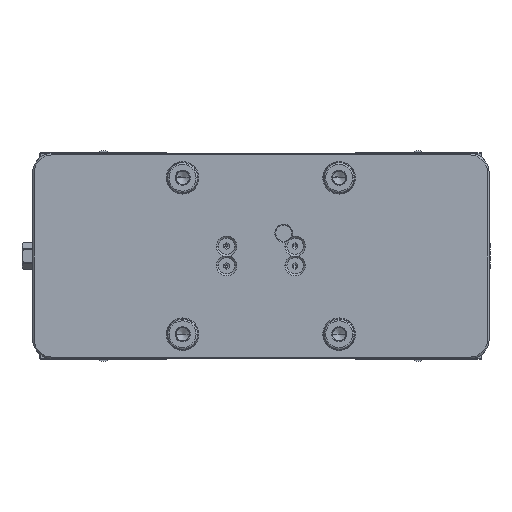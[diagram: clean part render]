
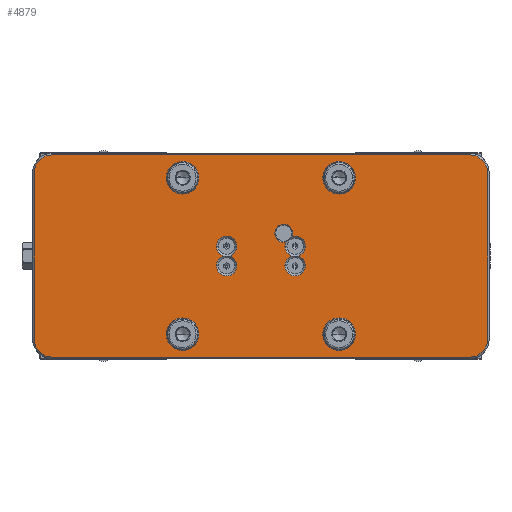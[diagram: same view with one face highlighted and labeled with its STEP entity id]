
A CAD part, front view. The second image highlights one B-rep face of the part: STEP entity #4879.
In plain terms, the highlighted planar face has unit normal (0, -1, 0).
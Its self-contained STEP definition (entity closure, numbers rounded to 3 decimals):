
#2=CARTESIAN_POINT('',(48.,0.,-48.));
#3=DIRECTION('',(0.,1.,0.));
#4=DIRECTION('',(1.,0.,0.));
#5=AXIS2_PLACEMENT_3D('',#2,#3,#4);
#7=CARTESIAN_POINT('',(48.,0.,-48.));
#8=DIRECTION('',(0.,1.,0.));
#9=DIRECTION('',(-1.,0.,0.));
#10=AXIS2_PLACEMENT_3D('',#7,#8,#9);
#12=CARTESIAN_POINT('',(48.,0.,48.));
#13=DIRECTION('',(0.,1.,0.));
#14=DIRECTION('',(1.,0.,0.));
#15=AXIS2_PLACEMENT_3D('',#12,#13,#14);
#17=CARTESIAN_POINT('',(48.,0.,48.));
#18=DIRECTION('',(0.,1.,0.));
#19=DIRECTION('',(-1.,0.,0.));
#20=AXIS2_PLACEMENT_3D('',#17,#18,#19);
#22=CARTESIAN_POINT('',(-48.,0.,-48.));
#23=DIRECTION('',(0.,1.,0.));
#24=DIRECTION('',(1.,0.,0.));
#25=AXIS2_PLACEMENT_3D('',#22,#23,#24);
#27=CARTESIAN_POINT('',(-48.,0.,-48.));
#28=DIRECTION('',(0.,1.,0.));
#29=DIRECTION('',(-1.,0.,0.));
#30=AXIS2_PLACEMENT_3D('',#27,#28,#29);
#32=CARTESIAN_POINT('',(-48.,0.,48.));
#33=DIRECTION('',(0.,1.,0.));
#34=DIRECTION('',(1.,0.,0.));
#35=AXIS2_PLACEMENT_3D('',#32,#33,#34);
#37=CARTESIAN_POINT('',(-48.,0.,48.));
#38=DIRECTION('',(0.,1.,0.));
#39=DIRECTION('',(-1.,0.,0.));
#40=AXIS2_PLACEMENT_3D('',#37,#38,#39);
#42=CARTESIAN_POINT('',(-21.,0.,-6.));
#43=DIRECTION('',(0.,-1.,0.));
#44=DIRECTION('',(-1.,0.,0.));
#45=AXIS2_PLACEMENT_3D('',#42,#43,#44);
#47=CARTESIAN_POINT('',(-21.,0.,-6.));
#48=DIRECTION('',(0.,-1.,0.));
#49=DIRECTION('',(1.,0.,0.));
#50=AXIS2_PLACEMENT_3D('',#47,#48,#49);
#52=CARTESIAN_POINT('',(-21.,0.,6.));
#53=DIRECTION('',(0.,-1.,0.));
#54=DIRECTION('',(0.28,0.,-0.96));
#55=AXIS2_PLACEMENT_3D('',#52,#53,#54);
#57=CARTESIAN_POINT('',(-21.,0.,6.));
#58=DIRECTION('',(0.,-1.,0.));
#59=DIRECTION('',(1.,0.,0.));
#60=AXIS2_PLACEMENT_3D('',#57,#58,#59);
#62=CARTESIAN_POINT('',(-21.,0.,6.));
#63=DIRECTION('',(0.,-1.,0.));
#64=DIRECTION('',(-1.,0.,0.));
#65=AXIS2_PLACEMENT_3D('',#62,#63,#64);
#67=CARTESIAN_POINT('',(-21.,0.,-6.));
#68=DIRECTION('',(0.,-1.,0.));
#69=DIRECTION('',(-0.28,0.,0.96));
#70=AXIS2_PLACEMENT_3D('',#67,#68,#69);
#72=CARTESIAN_POINT('',(21.,0.,-6.));
#73=DIRECTION('',(0.,-1.,0.));
#74=DIRECTION('',(-1.,0.,0.));
#75=AXIS2_PLACEMENT_3D('',#72,#73,#74);
#77=CARTESIAN_POINT('',(21.,0.,-6.));
#78=DIRECTION('',(0.,-1.,0.));
#79=DIRECTION('',(1.,0.,0.));
#80=AXIS2_PLACEMENT_3D('',#77,#78,#79);
#82=CARTESIAN_POINT('',(21.,0.,6.));
#83=DIRECTION('',(0.,-1.,0.));
#84=DIRECTION('',(0.28,0.,-0.96));
#85=AXIS2_PLACEMENT_3D('',#82,#83,#84);
#87=CARTESIAN_POINT('',(21.,0.,6.));
#88=DIRECTION('',(0.,-1.,0.));
#89=DIRECTION('',(1.,0.,0.));
#90=AXIS2_PLACEMENT_3D('',#87,#88,#89);
#92=CARTESIAN_POINT('',(21.,0.,6.));
#93=DIRECTION('',(0.,-1.,0.));
#94=DIRECTION('',(-0.904,0.,0.427));
#95=AXIS2_PLACEMENT_3D('',#92,#93,#94);
#97=CARTESIAN_POINT('',(21.,0.,6.));
#98=DIRECTION('',(0.,-1.,0.));
#99=DIRECTION('',(-1.,0.,0.));
#100=AXIS2_PLACEMENT_3D('',#97,#98,#99);
#102=CARTESIAN_POINT('',(21.,0.,-6.));
#103=DIRECTION('',(0.,-1.,0.));
#104=DIRECTION('',(-0.28,0.,0.96));
#105=AXIS2_PLACEMENT_3D('',#102,#103,#104);
#107=DIRECTION('',(0.,0.,-1.));
#108=VECTOR('',#107,102.);
#109=CARTESIAN_POINT('',(-139.,0.,
51.));
#110=LINE('',#109,#108);
#111=CARTESIAN_POINT('',(-128.,0.,51.));
#112=DIRECTION('',(0.,-1.,0.));
#113=DIRECTION('',(0.,0.,1.));
#114=AXIS2_PLACEMENT_3D('',#111,#112,#113);
#116=DIRECTION('',(-1.,0.,0.));
#117=VECTOR('',#116,256.);
#118=CARTESIAN_POINT('',(128.,0.,62.));
#119=LINE('',#118,#117);
#120=CARTESIAN_POINT('',(128.,0.,51.));
#121=DIRECTION('',(0.,-1.,0.));
#122=DIRECTION('',(1.,0.,0.));
#123=AXIS2_PLACEMENT_3D('',#120,#121,#122);
#125=DIRECTION('',(0.,0.,1.));
#126=VECTOR('',#125,102.);
#127=CARTESIAN_POINT('',(139.,0.,
-51.));
#128=LINE('',#127,#126);
#129=CARTESIAN_POINT('',(128.,0.,-51.));
#130=DIRECTION('',(0.,-1.,0.));
#131=DIRECTION('',(0.,0.,-1.));
#132=AXIS2_PLACEMENT_3D('',#129,#130,#131);
#134=DIRECTION('',(1.,0.,0.));
#135=VECTOR('',#134,256.);
#136=CARTESIAN_POINT('',(-128.,0.,
-62.));
#137=LINE('',#136,#135);
#138=CARTESIAN_POINT('',(-128.,0.,-51.));
#139=DIRECTION('',(0.,-1.,0.));
#140=DIRECTION('',(-1.,0.,0.));
#141=AXIS2_PLACEMENT_3D('',#138,#139,#140);
#694=CARTESIAN_POINT('',(14.,0.,14.));
#695=DIRECTION('',(0.,1.,0.));
#696=DIRECTION('',(0.245,0.,-0.97));
#697=AXIS2_PLACEMENT_3D('',#694,#695,#696);
#3854=CARTESIAN_POINT('',(56.5,0.,-48.));
#3855=CARTESIAN_POINT('',(39.5,0.,-48.));
#3856=VERTEX_POINT('',#3854);
#3857=VERTEX_POINT('',#3855);
#3862=CARTESIAN_POINT('',(56.5,0.,48.));
#3863=CARTESIAN_POINT('',(39.5,0.,48.));
#3864=VERTEX_POINT('',#3862);
#3865=VERTEX_POINT('',#3863);
#3870=CARTESIAN_POINT('',(-39.5,0.,-48.));
#3871=CARTESIAN_POINT('',(-56.5,0.,-48.));
#3872=VERTEX_POINT('',#3870);
#3873=VERTEX_POINT('',#3871);
#3878=CARTESIAN_POINT('',(-39.5,0.,48.));
#3879=CARTESIAN_POINT('',(-56.5,0.,48.));
#3880=VERTEX_POINT('',#3878);
#3881=VERTEX_POINT('',#3879);
#4082=CARTESIAN_POINT('',(-14.75,0.,6.));
#4083=CARTESIAN_POINT('',(-27.25,0.,6.));
#4084=VERTEX_POINT('',#4082);
#4085=VERTEX_POINT('',#4083);
#4090=CARTESIAN_POINT('',(27.25,0.,6.));
#4091=CARTESIAN_POINT('',(19.106,0.,11.956));
#4092=VERTEX_POINT('',#4090);
#4093=VERTEX_POINT('',#4091);
#4094=CARTESIAN_POINT('',(15.348,0.,8.668));
#4095=CARTESIAN_POINT('',(14.75,0.,6.));
#4096=VERTEX_POINT('',#4094);
#4097=VERTEX_POINT('',#4095);
#4104=CARTESIAN_POINT('',(-27.25,0.,-6.));
#4105=CARTESIAN_POINT('',(-14.75,0.,-6.));
#4106=VERTEX_POINT('',#4104);
#4107=VERTEX_POINT('',#4105);
#4108=CARTESIAN_POINT('',(-19.25,0.,0.));
#4109=VERTEX_POINT('',#4108);
#4110=CARTESIAN_POINT('',(-22.75,0.,0.));
#4111=VERTEX_POINT('',#4110);
#4116=CARTESIAN_POINT('',(14.75,0.,-6.));
#4117=CARTESIAN_POINT('',(27.25,0.,-6.));
#4118=VERTEX_POINT('',#4116);
#4119=VERTEX_POINT('',#4117);
#4120=CARTESIAN_POINT('',(22.75,0.,0.));
#4121=VERTEX_POINT('',#4120);
#4122=CARTESIAN_POINT('',(19.25,0.,0.));
#4123=VERTEX_POINT('',#4122);
#4674=CARTESIAN_POINT('',(-139.,0.,
51.));
#4675=CARTESIAN_POINT('',(-139.,0.,
-51.));
#4676=VERTEX_POINT('',#4674);
#4677=VERTEX_POINT('',#4675);
#4678=CARTESIAN_POINT('',(-128.,0.,62.));
#4679=VERTEX_POINT('',#4678);
#4682=CARTESIAN_POINT('',(128.,0.,
62.));
#4683=VERTEX_POINT('',#4682);
#4686=CARTESIAN_POINT('',(139.,0.,51.));
#4687=VERTEX_POINT('',#4686);
#4690=CARTESIAN_POINT('',(139.,0.,
-51.));
#4691=VERTEX_POINT('',#4690);
#4694=CARTESIAN_POINT('',(128.,0.,-62.));
#4695=VERTEX_POINT('',#4694);
#4698=CARTESIAN_POINT('',(-128.,0.,
-62.));
#4699=VERTEX_POINT('',#4698);
#4800=CARTESIAN_POINT('',(0.,0.,0.));
#4801=DIRECTION('',(0.,1.,0.));
#4802=DIRECTION('',(1.,0.,0.));
#4803=AXIS2_PLACEMENT_3D('',#4800,#4801,#4802);
#4804=PLANE('',#4803);
#4806=ORIENTED_EDGE('',*,*,#4805,.F.);
#4808=ORIENTED_EDGE('',*,*,#4807,.F.);
#4810=ORIENTED_EDGE('',*,*,#4809,.F.);
#4812=ORIENTED_EDGE('',*,*,#4811,.F.);
#4814=ORIENTED_EDGE('',*,*,#4813,.F.);
#4816=ORIENTED_EDGE('',*,*,#4815,.F.);
#4818=ORIENTED_EDGE('',*,*,#4817,.F.);
#4820=ORIENTED_EDGE('',*,*,#4819,.F.);
#4821=EDGE_LOOP('',(#4806,#4808,#4810,#4812,#4814,#4816,#4818,#4820));
#4822=FACE_OUTER_BOUND('',#4821,.F.);
#4824=ORIENTED_EDGE('',*,*,#4823,.F.);
#4826=ORIENTED_EDGE('',*,*,#4825,.F.);
#4827=EDGE_LOOP('',(#4824,#4826));
#4828=FACE_BOUND('',#4827,.F.);
#4830=ORIENTED_EDGE('',*,*,#4829,.F.);
#4832=ORIENTED_EDGE('',*,*,#4831,.F.);
#4833=EDGE_LOOP('',(#4830,#4832));
#4834=FACE_BOUND('',#4833,.F.);
#4836=ORIENTED_EDGE('',*,*,#4835,.F.);
#4838=ORIENTED_EDGE('',*,*,#4837,.F.);
#4839=EDGE_LOOP('',(#4836,#4838));
#4840=FACE_BOUND('',#4839,.F.);
#4842=ORIENTED_EDGE('',*,*,#4841,.T.);
#4844=ORIENTED_EDGE('',*,*,#4843,.T.);
#4846=ORIENTED_EDGE('',*,*,#4845,.T.);
#4848=ORIENTED_EDGE('',*,*,#4847,.T.);
#4850=ORIENTED_EDGE('',*,*,#4849,.T.);
#4852=ORIENTED_EDGE('',*,*,#4851,.T.);
#4853=EDGE_LOOP('',(#4842,#4844,#4846,#4848,#4850,#4852));
#4854=FACE_BOUND('',#4853,.F.);
#4856=ORIENTED_EDGE('',*,*,#4855,.T.);
#4858=ORIENTED_EDGE('',*,*,#4857,.T.);
#4860=ORIENTED_EDGE('',*,*,#4859,.T.);
#4862=ORIENTED_EDGE('',*,*,#4861,.T.);
#4864=ORIENTED_EDGE('',*,*,#4863,.F.);
#4866=ORIENTED_EDGE('',*,*,#4865,.T.);
#4868=ORIENTED_EDGE('',*,*,#4867,.T.);
#4870=ORIENTED_EDGE('',*,*,#4869,.T.);
#4871=EDGE_LOOP('',(#4856,#4858,#4860,#4862,#4864,#4866,#4868,#4870));
#4872=FACE_BOUND('',#4871,.F.);
#4874=ORIENTED_EDGE('',*,*,#4873,.F.);
#4876=ORIENTED_EDGE('',*,*,#4875,.F.);
#4877=EDGE_LOOP('',(#4874,#4876));
#4878=FACE_BOUND('',#4877,.F.);
#6=CIRCLE('',#5,8.5);
#11=CIRCLE('',#10,8.5);
#16=CIRCLE('',#15,8.5);
#21=CIRCLE('',#20,8.5);
#26=CIRCLE('',#25,8.5);
#31=CIRCLE('',#30,8.5);
#36=CIRCLE('',#35,8.5);
#41=CIRCLE('',#40,8.5);
#46=CIRCLE('',#45,6.25);
#51=CIRCLE('',#50,6.25);
#56=CIRCLE('',#55,6.25);
#61=CIRCLE('',#60,6.25);
#66=CIRCLE('',#65,6.25);
#71=CIRCLE('',#70,6.25);
#76=CIRCLE('',#75,6.25);
#81=CIRCLE('',#80,6.25);
#86=CIRCLE('',#85,6.25);
#91=CIRCLE('',#90,6.25);
#96=CIRCLE('',#95,6.25);
#101=CIRCLE('',#100,6.25);
#106=CIRCLE('',#105,6.25);
#115=CIRCLE('',#114,11.);
#124=CIRCLE('',#123,11.);
#133=CIRCLE('',#132,11.);
#142=CIRCLE('',#141,11.);
#698=CIRCLE('',#697,5.5);
#4805=EDGE_CURVE('',#4676,#4677,#110,.T.);
#4807=EDGE_CURVE('',#4679,#4676,#115,.T.);
#4809=EDGE_CURVE('',#4683,#4679,#119,.T.);
#4811=EDGE_CURVE('',#4687,#4683,#124,.T.);
#4813=EDGE_CURVE('',#4691,#4687,#128,.T.);
#4815=EDGE_CURVE('',#4695,#4691,#133,.T.);
#4817=EDGE_CURVE('',#4699,#4695,#137,.T.);
#4819=EDGE_CURVE('',#4677,#4699,#142,.T.);
#4823=EDGE_CURVE('',#3864,#3865,#16,.T.);
#4825=EDGE_CURVE('',#3865,#3864,#21,.T.);
#4829=EDGE_CURVE('',#3872,#3873,#26,.T.);
#4831=EDGE_CURVE('',#3873,#3872,#31,.T.);
#4835=EDGE_CURVE('',#3880,#3881,#36,.T.);
#4837=EDGE_CURVE('',#3881,#3880,#41,.T.);
#4841=EDGE_CURVE('',#4106,#4107,#46,.T.);
#4843=EDGE_CURVE('',#4107,#4109,#51,.T.);
#4845=EDGE_CURVE('',#4109,#4084,#56,.T.);
#4847=EDGE_CURVE('',#4084,#4085,#61,.T.);
#4849=EDGE_CURVE('',#4085,#4111,#66,.T.);
#4851=EDGE_CURVE('',#4111,#4106,#71,.T.);
#4855=EDGE_CURVE('',#4118,#4119,#76,.T.);
#4857=EDGE_CURVE('',#4119,#4121,#81,.T.);
#4859=EDGE_CURVE('',#4121,#4092,#86,.T.);
#4861=EDGE_CURVE('',#4092,#4093,#91,.T.);
#4863=EDGE_CURVE('',#4096,#4093,#698,.T.);
#4865=EDGE_CURVE('',#4096,#4097,#96,.T.);
#4867=EDGE_CURVE('',#4097,#4123,#101,.T.);
#4869=EDGE_CURVE('',#4123,#4118,#106,.T.);
#4873=EDGE_CURVE('',#3856,#3857,#6,.T.);
#4875=EDGE_CURVE('',#3857,#3856,#11,.T.);
#4879=ADVANCED_FACE('',(#4822,#4828,#4834,#4840,#4854,#4872,#4878),#4804,.F.);
